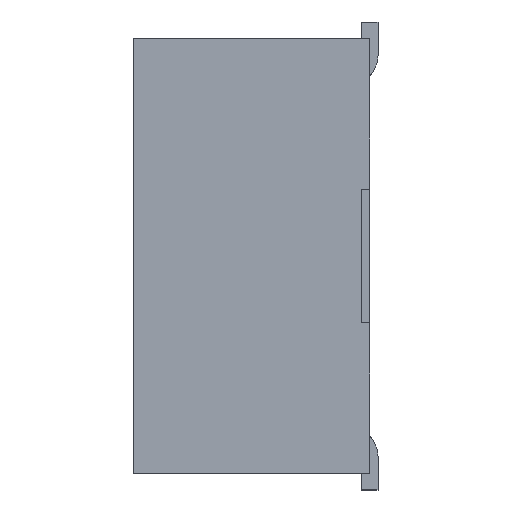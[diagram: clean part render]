
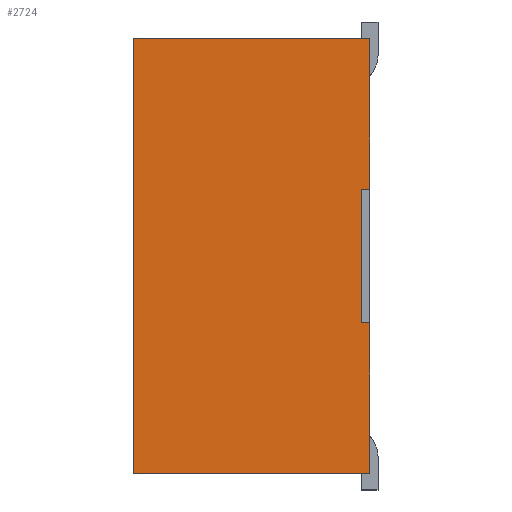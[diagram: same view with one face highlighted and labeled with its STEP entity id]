
A CAD part, left-side view. The second image highlights one B-rep face of the part: STEP entity #2724.
In plain terms, the highlighted planar face has unit normal (-1, 0, 0).
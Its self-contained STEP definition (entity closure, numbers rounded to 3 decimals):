
#91 = ORIENTED_EDGE ( 'NONE', *, *, #2793, .F. ) ;
#93 = VECTOR ( 'NONE', #8403, 1000. ) ;
#128 = CARTESIAN_POINT ( 'NONE',  ( -4.825, 0.05, -0.4 ) ) ;
#375 = EDGE_CURVE ( 'NONE', #1635, #7000, #3125, .T. ) ;
#731 = DIRECTION ( 'NONE',  ( -1., 0., 0. ) ) ;
#1026 = VECTOR ( 'NONE', #13803, 1000. ) ;
#1431 = LINE ( 'NONE', #8910, #6854 ) ;
#1635 = VERTEX_POINT ( 'NONE', #8229 ) ;
#1769 = VECTOR ( 'NONE', #3800, 1000. ) ;
#1808 = LINE ( 'NONE', #10353, #4032 ) ;
#1896 = CARTESIAN_POINT ( 'NONE',  ( -4.825, 1.3, -1.3 ) ) ;
#2375 = DIRECTION ( 'NONE',  ( 0., -1., 0. ) ) ;
#2576 = CARTESIAN_POINT ( 'NONE',  ( -4.825, 0.1, 0.4 ) ) ;
#2724 = ADVANCED_FACE ( 'NONE', ( #13572 ), #6122, .T. ) ;
#2793 = EDGE_CURVE ( 'NONE', #4785, #5105, #7132, .T. ) ;
#2822 = AXIS2_PLACEMENT_3D ( 'NONE', #13706, #731, #8291 ) ;
#2986 = LINE ( 'NONE', #12727, #93 ) ;
#3125 = LINE ( 'NONE', #11113, #13964 ) ;
#3456 = CARTESIAN_POINT ( 'NONE',  ( -4.825, 0.1, 0.4 ) ) ;
#3472 = VECTOR ( 'NONE', #13679, 1000. ) ;
#3670 = CARTESIAN_POINT ( 'NONE',  ( -4.825, 1.46, 1.3 ) ) ;
#3800 = DIRECTION ( 'NONE',  ( 0., 0., 1. ) ) ;
#4032 = VECTOR ( 'NONE', #9200, 1000. ) ;
#4395 = LINE ( 'NONE', #3456, #12712 ) ;
#4785 = VERTEX_POINT ( 'NONE', #8055 ) ;
#5105 = VERTEX_POINT ( 'NONE', #8661 ) ;
#5235 = EDGE_CURVE ( 'NONE', #8500, #5105, #1431, .T. ) ;
#5499 = EDGE_CURVE ( 'NONE', #8500, #12678, #11776, .T. ) ;
#5670 = DIRECTION ( 'NONE',  ( 0., 0., -1. ) ) ;
#6122 = PLANE ( 'NONE',  #2822 ) ;
#6693 = CARTESIAN_POINT ( 'NONE',  ( -4.825, 0.05, 0.4 ) ) ;
#6779 = ORIENTED_EDGE ( 'NONE', *, *, #375, .F. ) ;
#6854 = VECTOR ( 'NONE', #5670, 1000. ) ;
#6898 = ORIENTED_EDGE ( 'NONE', *, *, #5235, .T. ) ;
#6931 = ORIENTED_EDGE ( 'NONE', *, *, #5499, .F. ) ;
#7000 = VERTEX_POINT ( 'NONE', #128 ) ;
#7013 = CARTESIAN_POINT ( 'NONE',  ( -4.825, 0.05, 1.3 ) ) ;
#7132 = LINE ( 'NONE', #1896, #1026 ) ;
#7665 = EDGE_LOOP ( 'NONE', ( #6898, #91, #8981, #6779, #11751, #13895, #11234, #6931 ) ) ;
#7761 = EDGE_CURVE ( 'NONE', #8508, #1635, #4395, .T. ) ;
#8055 = CARTESIAN_POINT ( 'NONE',  ( -4.825, 0.05, -1.3 ) ) ;
#8229 = CARTESIAN_POINT ( 'NONE',  ( -4.825, 0.1, -0.4 ) ) ;
#8264 = CARTESIAN_POINT ( 'NONE',  ( -4.825, 1.3, 1.3 ) ) ;
#8291 = DIRECTION ( 'NONE',  ( 0., 0., -1. ) ) ;
#8391 = VERTEX_POINT ( 'NONE', #6693 ) ;
#8403 = DIRECTION ( 'NONE',  ( 0., -1., 0. ) ) ;
#8500 = VERTEX_POINT ( 'NONE', #3670 ) ;
#8508 = VERTEX_POINT ( 'NONE', #2576 ) ;
#8604 = EDGE_CURVE ( 'NONE', #8391, #12678, #1808, .T. ) ;
#8661 = CARTESIAN_POINT ( 'NONE',  ( -4.825, 1.46, -1.3 ) ) ;
#8910 = CARTESIAN_POINT ( 'NONE',  ( -4.825, 1.46, 1.3 ) ) ;
#8981 = ORIENTED_EDGE ( 'NONE', *, *, #10188, .T. ) ;
#9200 = DIRECTION ( 'NONE',  ( 0., 0., 1. ) ) ;
#9871 = EDGE_CURVE ( 'NONE', #8508, #8391, #2986, .T. ) ;
#10188 = EDGE_CURVE ( 'NONE', #4785, #7000, #12981, .T. ) ;
#10353 = CARTESIAN_POINT ( 'NONE',  ( -4.825, 0.05, 1.3 ) ) ;
#11035 = DIRECTION ( 'NONE',  ( 0., 0., -1. ) ) ;
#11113 = CARTESIAN_POINT ( 'NONE',  ( -4.825, 0.1, -0.4 ) ) ;
#11234 = ORIENTED_EDGE ( 'NONE', *, *, #8604, .T. ) ;
#11751 = ORIENTED_EDGE ( 'NONE', *, *, #7761, .F. ) ;
#11776 = LINE ( 'NONE', #8264, #3472 ) ;
#12678 = VERTEX_POINT ( 'NONE', #13583 ) ;
#12712 = VECTOR ( 'NONE', #11035, 1000. ) ;
#12727 = CARTESIAN_POINT ( 'NONE',  ( -4.825, 0.1, 0.4 ) ) ;
#12981 = LINE ( 'NONE', #7013, #1769 ) ;
#13572 = FACE_OUTER_BOUND ( 'NONE', #7665, .T. ) ;
#13583 = CARTESIAN_POINT ( 'NONE',  ( -4.825, 0.05, 1.3 ) ) ;
#13679 = DIRECTION ( 'NONE',  ( 0., -1., 0. ) ) ;
#13706 = CARTESIAN_POINT ( 'NONE',  ( -4.825, 0., 0. ) ) ;
#13803 = DIRECTION ( 'NONE',  ( 0., 1., 0. ) ) ;
#13895 = ORIENTED_EDGE ( 'NONE', *, *, #9871, .T. ) ;
#13964 = VECTOR ( 'NONE', #2375, 1000. ) ;
